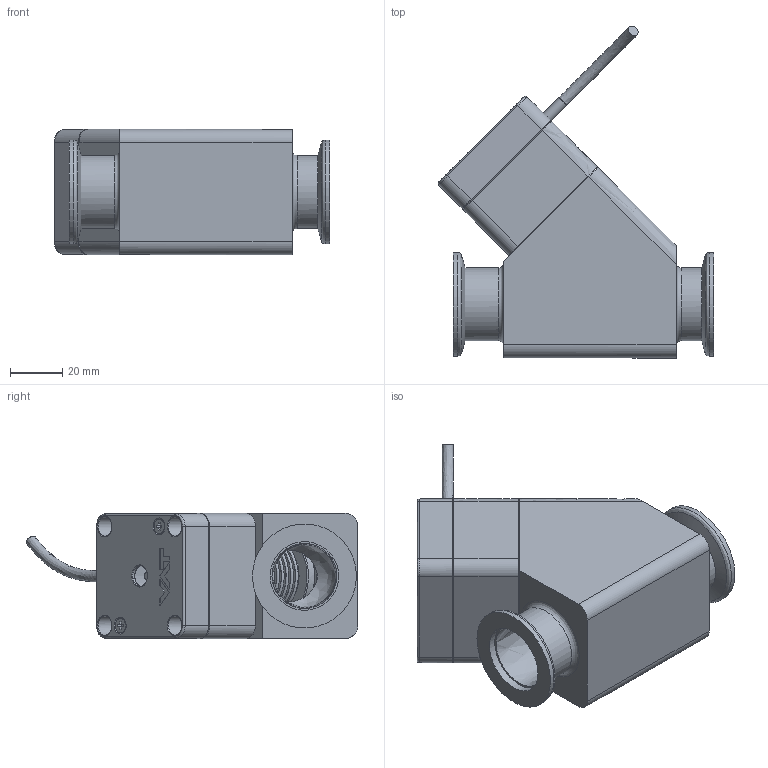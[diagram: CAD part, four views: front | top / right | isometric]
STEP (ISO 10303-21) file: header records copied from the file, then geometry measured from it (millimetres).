
FILE_DESCRIPTION((''),'2;1');
FILE_NAME('O:\MT\MT\Systeme\Cad\Datenexporte\www_vat_ch\256611.stp','2004-11-18T14:28:03',('User'),('SDRC'),'I-DEAS Master Series 9','UNIX','Yes');
FILE_SCHEMA(('CONFIG_CONTROL_DESIGN'));
Length unit declared in the file: millimetre
Assembly tree (15 placements, depth 0):
Bounding box: 105.7 x 127.23 x 48 mm (x, y, z)
Volume: 169278.3 mm3; surface area: 99947.4 mm2
Topology: 22 solids, 22 shells, 660 faces, 1463 edges, 945 vertices
Faces by surface type: bspline 660
Entity records: 22438 total; most frequent: CARTESIAN_POINT 12888, ORIENTED_EDGE 2602, EDGE_CURVE 1301, VERTEX_POINT 841, EDGE_LOOP 722, FACE_OUTER_BOUND 585, ADVANCED_FACE 585, QUASI_UNIFORM_CURVE 363
